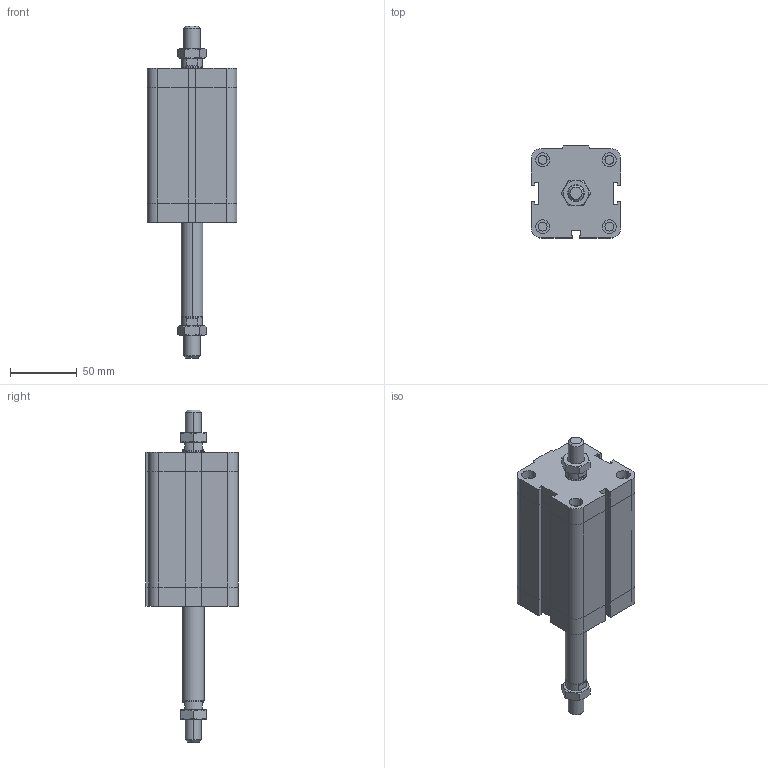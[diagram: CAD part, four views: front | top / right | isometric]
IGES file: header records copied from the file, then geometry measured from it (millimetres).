
Global section: file name: No Iges File Name specified; native system: Autodesk Inventor 2009; preprocessor: AutoDesk Inventor Iges Exporter R2009; author: maffial1; date: 20090420.200944; units: millimetre
Bounding box: 67 x 69 x 248.5 mm (x, y, z)
Volume: 510935.5 mm3; surface area: 68532.9 mm2
Topology: 4 solids, 4 shells, 260 faces, 574 edges, 342 vertices
Faces by surface type: plane 129, bspline 51, cone 38, cylinder 22, revolution 20
